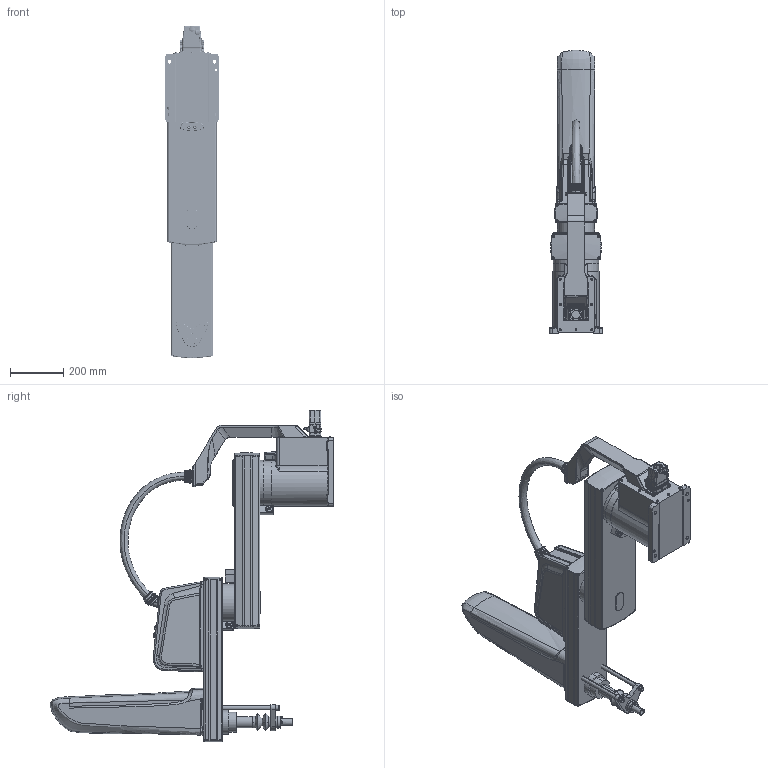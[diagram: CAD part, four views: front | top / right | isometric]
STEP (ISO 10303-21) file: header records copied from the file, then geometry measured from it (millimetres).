
FILE_DESCRIPTION (( 'STEP AP214' ), '1' );
FILE_NAME ('MB25SC-1000俋楷耀倰.STEP', '2024-11-05T03:09:08', ( 'Windows User' ), ( 'P R C' ), 'SwSTEP 2.0', 'SolidWorks 2020', '' );
FILE_SCHEMA (( 'AUTOMOTIVE_DESIGN' ));
Length unit declared in the file: millimetre
Products named in the file (5): J4; J1; J3; MB25SC-1000俋楷耀倰; J2
Assembly tree (4 placements, depth 2):
  MB25SC-1000俋楷耀倰
    J1
    J2
    J3
    J4
Bounding box: 200 x 1067.48 x 1249.78 mm (x, y, z)
Volume: 24128620.4 mm3; surface area: 2114007.3 mm2
Topology: 3 solids, 63 shells, 5894 faces, 15176 edges, 9538 vertices
Faces by surface type: plane 2041, cylinder 1865, bspline 1439, cone 549
Entity records: 281250 total; most frequent: CARTESIAN_POINT 150587, ORIENTED_EDGE 29937, DIRECTION 23217, EDGE_CURVE 14980, VERTEX_POINT 9538, AXIS2_PLACEMENT_3D 8600, EDGE_LOOP 6433, VECTOR 6017
